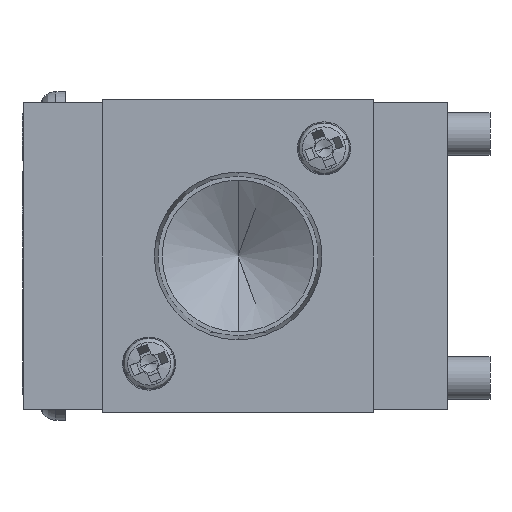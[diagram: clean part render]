
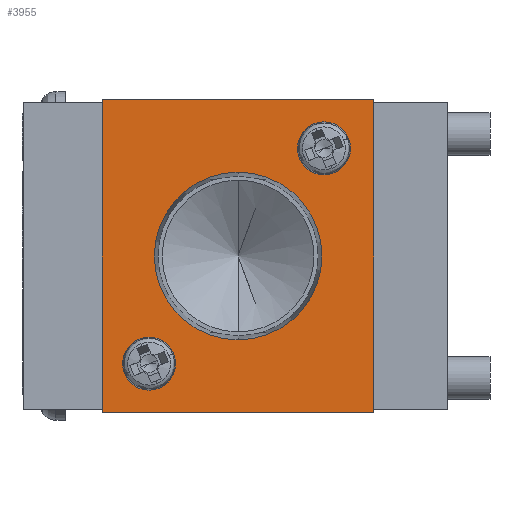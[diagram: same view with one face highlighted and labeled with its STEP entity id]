
A CAD part, left-side view. The second image highlights one B-rep face of the part: STEP entity #3955.
In plain terms, the highlighted planar face has unit normal (-1, 0, 0) as drawn and (1, 0, 0) by its records, which use the part's own axes.
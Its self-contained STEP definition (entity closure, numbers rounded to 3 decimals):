
#132 = VERTEX_POINT ( 'NONE', #2071 ) ;
#324 = CARTESIAN_POINT ( 'NONE',  ( 12.1, 0., 0. ) ) ;
#351 = DIRECTION ( 'NONE',  ( 0., 0., -1. ) ) ;
#384 = CIRCLE ( 'NONE', #8749, 7.903 ) ;
#603 = VERTEX_POINT ( 'NONE', #6580 ) ;
#616 = CARTESIAN_POINT ( 'NONE',  ( 12.1, 45.55, -1.25 ) ) ;
#833 = FACE_BOUND ( 'NONE', #5144, .T. ) ;
#1187 = LINE ( 'NONE', #616, #4560 ) ;
#1289 = EDGE_CURVE ( 'NONE', #3716, #132, #5351, .T. ) ;
#1552 = EDGE_CURVE ( 'NONE', #5811, #603, #6541, .T. ) ;
#1936 = ORIENTED_EDGE ( 'NONE', *, *, #3090, .T. ) ;
#2071 = CARTESIAN_POINT ( 'NONE',  ( 12.1, 19.95, 28.25 ) ) ;
#2099 = EDGE_LOOP ( 'NONE', ( #9075, #1936, #7616, #8245 ) ) ;
#2198 = VECTOR ( 'NONE', #6914, 1000. ) ;
#2906 = VECTOR ( 'NONE', #4666, 1000. ) ;
#3090 = EDGE_CURVE ( 'NONE', #132, #4066, #4108, .T. ) ;
#3128 = CARTESIAN_POINT ( 'NONE',  ( 12.1, 19.95, -1.25 ) ) ;
#3360 = CARTESIAN_POINT ( 'NONE',  ( 12.1, 45.55, 28.25 ) ) ;
#3616 = ORIENTED_EDGE ( 'NONE', *, *, #1552, .F. ) ;
#3716 = VERTEX_POINT ( 'NONE', #3360 ) ;
#3940 = DIRECTION ( 'NONE',  ( 0., 0., -1. ) ) ;
#3955 = ADVANCED_FACE ( 'NONE', ( #833, #8119 ), #6669, .T. ) ;
#4024 = CARTESIAN_POINT ( 'NONE',  ( 12.1, 45.55, -1.25 ) ) ;
#4066 = VERTEX_POINT ( 'NONE', #3128 ) ;
#4108 = LINE ( 'NONE', #9031, #2198 ) ;
#4282 = EDGE_CURVE ( 'NONE', #4066, #8111, #1187, .T. ) ;
#4541 = DIRECTION ( 'NONE',  ( 0., 0., -1. ) ) ;
#4560 = VECTOR ( 'NONE', #6287, 1000. ) ;
#4666 = DIRECTION ( 'NONE',  ( 0., -1., 0. ) ) ;
#4797 = LINE ( 'NONE', #9187, #5550 ) ;
#5144 = EDGE_LOOP ( 'NONE', ( #7139, #3616 ) ) ;
#5351 = LINE ( 'NONE', #7477, #2906 ) ;
#5482 = DIRECTION ( 'NONE',  ( 1., 0., 0. ) ) ;
#5550 = VECTOR ( 'NONE', #6351, 1000. ) ;
#5811 = VERTEX_POINT ( 'NONE', #8342 ) ;
#6260 = AXIS2_PLACEMENT_3D ( 'NONE', #324, #6601, #4541 ) ;
#6287 = DIRECTION ( 'NONE',  ( 0., 1., 0. ) ) ;
#6351 = DIRECTION ( 'NONE',  ( 0., 0., 1. ) ) ;
#6541 = CIRCLE ( 'NONE', #7741, 7.903 ) ;
#6580 = CARTESIAN_POINT ( 'NONE',  ( 12.1, 32.75, 5.597 ) ) ;
#6601 = DIRECTION ( 'NONE',  ( 1., 0., 0. ) ) ;
#6622 = EDGE_CURVE ( 'NONE', #8111, #3716, #4797, .T. ) ;
#6669 = PLANE ( 'NONE',  #6260 ) ;
#6914 = DIRECTION ( 'NONE',  ( 0., 0., -1. ) ) ;
#7139 = ORIENTED_EDGE ( 'NONE', *, *, #7956, .F. ) ;
#7477 = CARTESIAN_POINT ( 'NONE',  ( 12.1, 45.55, 28.25 ) ) ;
#7616 = ORIENTED_EDGE ( 'NONE', *, *, #4282, .T. ) ;
#7741 = AXIS2_PLACEMENT_3D ( 'NONE', #8321, #5482, #351 ) ;
#7956 = EDGE_CURVE ( 'NONE', #603, #5811, #384, .T. ) ;
#8111 = VERTEX_POINT ( 'NONE', #4024 ) ;
#8119 = FACE_OUTER_BOUND ( 'NONE', #2099, .T. ) ;
#8164 = DIRECTION ( 'NONE',  ( 1., 0., 0. ) ) ;
#8245 = ORIENTED_EDGE ( 'NONE', *, *, #6622, .T. ) ;
#8321 = CARTESIAN_POINT ( 'NONE',  ( 12.1, 32.75, 13.5 ) ) ;
#8342 = CARTESIAN_POINT ( 'NONE',  ( 12.1, 32.75, 21.403 ) ) ;
#8749 = AXIS2_PLACEMENT_3D ( 'NONE', #8796, #8164, #3940 ) ;
#8796 = CARTESIAN_POINT ( 'NONE',  ( 12.1, 32.75, 13.5 ) ) ;
#9031 = CARTESIAN_POINT ( 'NONE',  ( 12.1, 19.95, 28.25 ) ) ;
#9075 = ORIENTED_EDGE ( 'NONE', *, *, #1289, .T. ) ;
#9187 = CARTESIAN_POINT ( 'NONE',  ( 12.1, 45.55, 28.25 ) ) ;
